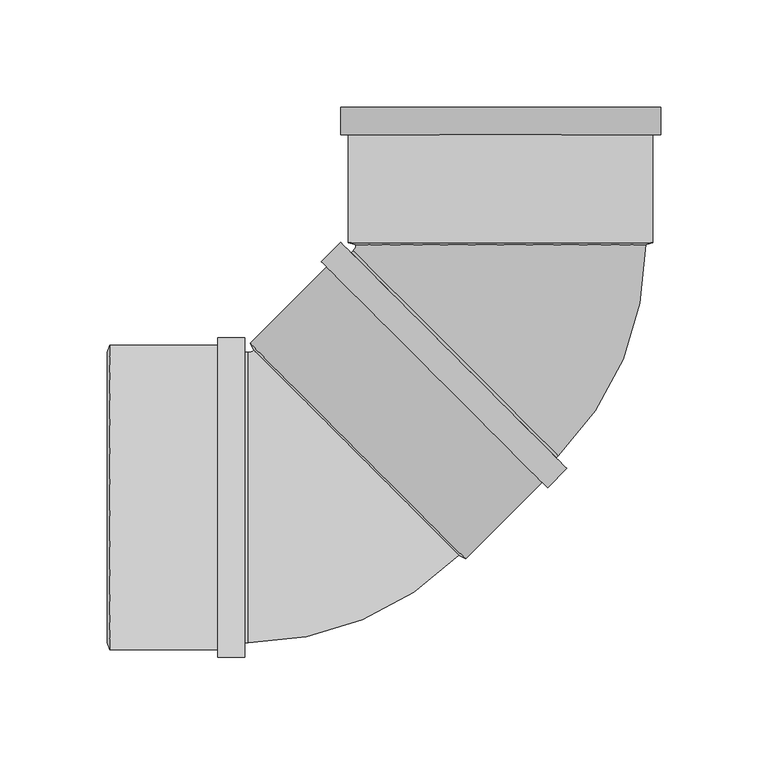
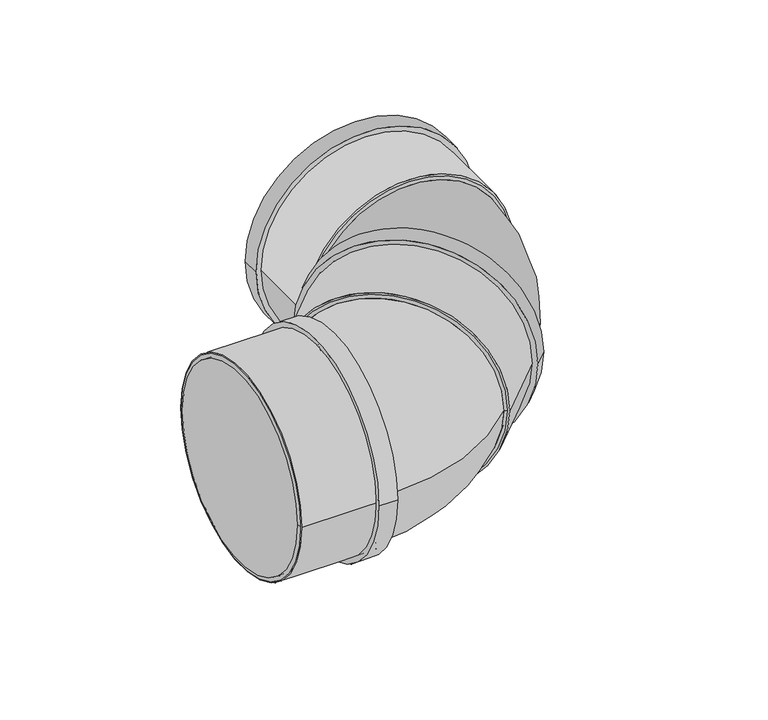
"""IFC4 building model written with IfcOpenShell, lengths in millimetres: pipe fitting geometry, Superdrain SK Bend_Composite 2x45 : Superdrain SK Bend_Composite 2x45."""

from ifc_helpers import new_model, si_unit, point, frame, origin, origin_2d, place, context, project, spatial, polyline, circle_curve, ellipse_curve, trimmed, segment, composite_curve, outline, extrude, source, transform, mapped, element, save
from ifc_brep_helpers import plane_surface, revolved_surface, advanced_brep


def pipe_fitting_3aace630(model_context):
    return source(origin(), model_context, "Body", "SolidModel", [
        advanced_brep(
        [(67.5, 117.5347943, 0.0), (-67.5, 117.5347943, 0.0), (26.8700577, 19.4454365, 0.0), (-68.5893578, 114.9048519, 0.0)],
        [
            (0, 1, circle_curve(frame((0.0, 117.5347943, 0.0), z_axis=(0.0, 1.0, 0.0), x_axis=(-1.0, 0.0, 0.0)), 67.5)),
            (1, 0, circle_curve(frame((0.0, 117.5347943, 0.0), z_axis=(0.0, 1.0, 0.0), x_axis=(-1.0, 0.0, 0.0)), 67.5)),
            (2, 3, circle_curve(frame((-20.85965, 67.1751442, 0.0), z_axis=(-0.7071067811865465, -0.7071067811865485, 0.0), x_axis=(-0.7071067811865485, 0.7071067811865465, 0.0)), 67.5)),
            (3, 2, circle_curve(frame((-20.85965, 67.1751442, 0.0), z_axis=(-0.7071067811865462, -0.7071067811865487, 0.0), x_axis=(-0.7071067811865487, 0.7071067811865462, 0.0)), 67.5)),
            (3, 1, circle_curve(frame((-71.2193001, 117.5347943, 0.0), z_axis=(0.0, 0.0, 1.0), x_axis=(0.7071067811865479, 0.707106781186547, 0.0)), 3.7193001)),
            (0, 2, circle_curve(frame((-71.2193001, 117.5347943, 0.0), z_axis=(0.0, 0.0, -1.0), x_axis=(0.7071067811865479, 0.707106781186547, 0.0)), 138.7193001)),
        ],
        [
            plane_surface(frame((0.0, 117.5347943, 0.0), z_axis=(0.0, 1.0, 0.0), x_axis=(0.0, 0.0, -1.0))),
            plane_surface(frame((-20.85965, 67.1751442, 0.0), z_axis=(-0.7071067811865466, -0.7071067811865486, 0.0), x_axis=(0.0, 0.0, -1.0))),
            revolved_surface(trimmed(ellipse_curve(frame((-20.85965, 167.8944443, 0.0), z_axis=(0.707106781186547, -0.7071067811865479, 0.0), x_axis=(-0.7071067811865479, -0.707106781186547, 0.0)), 67.5, 67.5), [point((-68.5893578, 120.1647366, 0.0))], [point((26.8700577, 215.624152, 0.0))], True, "CARTESIAN"), (-71.2193001, 117.5347943, 0.0), (0.0, 0.0, 1.0)),
            revolved_surface(trimmed(ellipse_curve(frame((-20.85965, 167.8944443, 0.0), z_axis=(0.707106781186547, -0.7071067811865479, 0.0), x_axis=(-0.7071067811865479, -0.707106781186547, 0.0)), 67.5, 67.5), [point((26.8700577, 215.624152, 0.0))], [point((-68.5893578, 120.1647366, 0.0))], True, "CARTESIAN"), (-71.2193001, 117.5347943, 0.0), (0.0, 0.0, 1.0)),
        ],
        [
            (0, [[1, 2]]),
            (1, [[3, 4]]),
            (2, [[-4, 5, -1, 6]]),
            (3, [[-3, -6, -2, -5]]),
        ],
    ),
        extrude(outline(composite_curve([segment(trimmed(circle_curve(origin_2d(), 70.875), [point((0.0, 70.875))], [point((0.0, -70.875))], False, "CARTESIAN"), True, "CONTINUOUS"), segment(trimmed(circle_curve(origin_2d(), 70.875), [point((0.0, -70.875))], [point((0.0, 70.875))], False, "CARTESIAN"), True, "CONTINUOUS")], self_intersect=False), holes=[composite_curve([segment(trimmed(circle_curve(origin_2d(), 67.5), [point((0.0, 67.5))], [point((0.0, -67.5))], True, "CARTESIAN"), True, "CONTINUOUS"), segment(trimmed(circle_curve(origin_2d(), 67.5), [point((0.0, -67.5))], [point((0.0, 67.5))], True, "CARTESIAN"), True, "CONTINUOUS")], self_intersect=False)]), frame((0.0, 118.5347943, 0.0), z_axis=(0.0, 1.0, 0.0), x_axis=(0.0, 0.0, 1.0)), (0.0, 0.0, 1.0), 63.0),
        extrude(outline(composite_curve([segment(trimmed(circle_curve(origin_2d(), 74.41875), [point((0.0, -74.41875))], [point((0.0, 74.41875))], False, "CARTESIAN"), True, "CONTINUOUS"), segment(trimmed(circle_curve(origin_2d(), 74.41875), [point((0.0, 74.41875))], [point((0.0, -74.41875))], False, "CARTESIAN"), True, "CONTINUOUS")], self_intersect=False), holes=[composite_curve([segment(trimmed(circle_curve(origin_2d(), 67.5), [point((0.0, -67.5))], [point((0.0, 67.5))], True, "CARTESIAN"), True, "CONTINUOUS"), segment(trimmed(circle_curve(origin_2d(), 67.5), [point((0.0, 67.5))], [point((0.0, -67.5))], True, "CARTESIAN"), True, "CONTINUOUS")], self_intersect=False)]), frame((0.0, 168.9347943, 0.0), z_axis=(0.0, 1.0, 0.0), x_axis=(0.0, 0.0, 1.0)), (0.0, 0.0, 1.0), 12.6),
        advanced_brep(
        [(70.875, 118.5347943, 0.0), (-70.875, 118.5347943, 0.0), (67.5, 117.5347943, 0.0), (-67.5, 117.5347943, 0.0)],
        [
            (0, 1, circle_curve(frame((0.0, 118.5347943, 0.0), z_axis=(0.0, 1.0, 0.0), x_axis=(1.0, 0.0, 0.0)), 70.875)),
            (1, 0, circle_curve(frame((0.0, 118.5347943, 0.0), z_axis=(0.0, 1.0, 0.0), x_axis=(-1.0, 0.0, 0.0)), 70.875)),
            (2, 3, circle_curve(frame((0.0, 117.5347943, 0.0), z_axis=(0.0, -1.0, 0.0), x_axis=(-1.0, 0.0, 0.0)), 67.5)),
            (3, 2, circle_curve(frame((0.0, 117.5347943, 0.0), z_axis=(0.0, -1.0, 0.0), x_axis=(1.0, 0.0, 0.0)), 67.5)),
            (3, 1),
            (0, 2),
        ],
        [
            plane_surface(frame((0.0, 118.5347943, 0.0), z_axis=(0.0, 1.0, 0.0), x_axis=(0.0, 0.0, -1.0))),
            plane_surface(frame((0.0, 117.5347943, 0.0), z_axis=(0.0, -1.0, 0.0), x_axis=(0.0, 0.0, -1.0))),
            revolved_surface(polyline([(-67.5, 117.5347943, 0.0), (-70.875, 118.5347943, 0.0)]), (0.0, 97.5347943, 0.0), (0.0, 0.9999999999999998, 0.0)),
            revolved_surface(polyline([(67.5, 117.5347943, 0.0), (70.875, 118.5347943, 0.0)]), (0.0, 97.5347943, 0.0), (0.0, 0.9999999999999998, 0.0)),
        ],
        [
            (0, [[1, 2]]),
            (1, [[3, 4]]),
            (2, [[-4, 5, -1, 6]]),
            (3, [[-3, -6, -2, -5]]),
        ],
    ),
        extrude(outline(composite_curve([segment(trimmed(circle_curve(origin_2d(), 67.5), [point((0.0, -67.5))], [point((0.0, 67.5000001))], False, "CARTESIAN"), True, "CONTINUOUS"), segment(trimmed(circle_curve(origin_2d(), 67.5), [point((0.0, 67.5000001))], [point((0.0, -67.5))], False, "CARTESIAN"), True, "CONTINUOUS")], self_intersect=False)), frame((-66.4680374, 21.5667568, 0.0), z_axis=(0.707106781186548, 0.7071067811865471, 0.0), x_axis=(0.0, 0.0, -1.0)), (0.0, 0.0, 1.0), 64.5),
        extrude(outline(composite_curve([segment(trimmed(circle_curve(origin_2d(), 70.875), [point((70.875, 0.0))], [point((-70.875, 0.0))], False, "CARTESIAN"), True, "CONTINUOUS"), segment(trimmed(circle_curve(origin_2d(), 70.875), [point((-70.875, 0.0))], [point((70.875, 0.0))], False, "CARTESIAN"), True, "CONTINUOUS")], self_intersect=False), holes=[composite_curve([segment(trimmed(circle_curve(origin_2d(), 67.5), [point((67.5, 0.0))], [point((-67.5, 0.0))], True, "CARTESIAN"), True, "CONTINUOUS"), segment(trimmed(circle_curve(origin_2d(), 67.5), [point((-67.5, 0.0))], [point((67.5, 0.0))], True, "CARTESIAN"), True, "CONTINUOUS")], self_intersect=False)]), frame((-182.0347943, 0.0, 0.0), z_axis=(1.0, 0.0, 0.0), x_axis=(0.0, 1.0, 0.0)), (0.0, 0.0, 1.0), 63.0),
        extrude(outline(composite_curve([segment(trimmed(circle_curve(origin_2d(), 74.41875), [point((74.41875, 0.0))], [point((-74.41875, 0.0))], False, "CARTESIAN"), True, "CONTINUOUS"), segment(trimmed(circle_curve(origin_2d(), 74.41875), [point((-74.41875, 0.0))], [point((74.41875, 0.0))], False, "CARTESIAN"), True, "CONTINUOUS")], self_intersect=False), holes=[composite_curve([segment(trimmed(circle_curve(origin_2d(), 67.5), [point((67.5, 0.0))], [point((-67.5, 0.0))], True, "CARTESIAN"), True, "CONTINUOUS"), segment(trimmed(circle_curve(origin_2d(), 67.5), [point((-67.5, 0.0))], [point((67.5, 0.0))], True, "CARTESIAN"), True, "CONTINUOUS")], self_intersect=False)]), frame((-131.6347943, 0.0, 0.0), z_axis=(1.0, 0.0, 0.0), x_axis=(0.0, 1.0, 0.0)), (0.0, 0.0, 1.0), 12.6),
        advanced_brep(
        [(-183.0347943, 67.5, 0.0), (-183.0347943, -67.5, 0.0), (-182.0347943, 70.875, 0.0), (-182.0347943, -70.875, 0.0)],
        [
            (0, 1, circle_curve(frame((-183.0347943, 0.0, 0.0), z_axis=(-1.0, 0.0, 0.0), x_axis=(0.0, 1.0000000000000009, 0.0)), 67.5)),
            (1, 0, circle_curve(frame((-183.0347943, 0.0, 0.0), z_axis=(-1.0, 0.0, 0.0), x_axis=(0.0, -1.0000000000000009, 0.0)), 67.5)),
            (2, 3, circle_curve(frame((-182.0347943, 0.0, 0.0), z_axis=(1.0, 0.0, 0.0), x_axis=(0.0, -1.0000000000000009, 0.0)), 70.875)),
            (3, 2, circle_curve(frame((-182.0347943, 0.0, 0.0), z_axis=(1.0, 0.0, 0.0), x_axis=(0.0, 1.0000000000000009, 0.0)), 70.875)),
            (3, 1),
            (0, 2),
        ],
        [
            plane_surface(frame((-183.0347943, 0.0, 0.0), z_axis=(-1.0, 0.0, 0.0), x_axis=(0.0, 0.0, -1.0))),
            plane_surface(frame((-182.0347943, 0.0, 0.0), z_axis=(1.0, 0.0, 0.0), x_axis=(0.0, 0.0, -1.0))),
            revolved_surface(polyline([(-183.0347943, 67.49999999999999, 0.0), (-182.0347943, 70.875, 0.0)]), (-203.0347943, 0.0, 0.0), (1.0000000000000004, 0.0, 0.0)),
            revolved_surface(polyline([(-183.0347943, -67.49999999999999, 0.0), (-182.0347943, -70.875, 0.0)]), (-203.0347943, 0.0, 0.0), (1.0000000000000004, 0.0, 0.0)),
        ],
        [
            (0, [[1, 2]]),
            (1, [[3, 4]]),
            (2, [[-4, 5, -1, 6]]),
            (3, [[-3, -6, -2, -5]]),
        ],
    ),
        advanced_brep(
        [(-19.4454365, -26.8700577, 0.0), (-114.9048519, 68.5893578, 0.0), (-117.5347943, -67.5, 0.0), (-117.5347943, 67.5, 0.0)],
        [
            (0, 1, circle_curve(frame((-67.1751442, 20.85965, 0.0), z_axis=(0.7071067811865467, 0.7071067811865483, 0.0), x_axis=(-0.7071067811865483, 0.7071067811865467, 0.0)), 67.5)),
            (1, 0, circle_curve(frame((-67.1751442, 20.85965, 0.0), z_axis=(0.7071067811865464, 0.7071067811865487, 0.0), x_axis=(-0.7071067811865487, 0.7071067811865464, 0.0)), 67.5)),
            (2, 3, circle_curve(frame((-117.5347943, 0.0, 0.0), z_axis=(-1.0, 0.0, 0.0), x_axis=(0.0, 1.0, 0.0)), 67.5)),
            (3, 2, circle_curve(frame((-117.5347943, 0.0, 0.0), z_axis=(-1.0, 0.0, 0.0), x_axis=(0.0, 1.0, 0.0)), 67.5)),
            (3, 1, circle_curve(frame((-117.5347943, 71.2193001, 0.0), z_axis=(0.0, 0.0, 1.0), x_axis=(1.0, 0.0, 0.0)), 3.7193001)),
            (0, 2, circle_curve(frame((-117.5347943, 71.2193001, 0.0), z_axis=(0.0, 0.0, -1.0), x_axis=(1.0, 0.0, 0.0)), 138.7193001)),
        ],
        [
            plane_surface(frame((-67.1751442, 20.85965, 0.0), z_axis=(0.7071067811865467, 0.7071067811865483, 0.0), x_axis=(0.0, 0.0, -1.0))),
            plane_surface(frame((-117.5347943, 0.0, 0.0), z_axis=(-1.0, 0.0, 0.0), x_axis=(0.0, 0.0, -1.0))),
            revolved_surface(trimmed(ellipse_curve(frame((-46.3154942, 71.2193001, 0.0), z_axis=(0.0, -1.0, 0.0), x_axis=(-1.0, 0.0, 0.0)), 67.5, 67.5), [point((-113.8154942, 71.2193001, 0.0))], [point((21.1845058, 71.2193001, 0.0))], True, "CARTESIAN"), (-117.5347943, 71.2193001, 0.0), (0.0, 0.0, 1.0)),
            revolved_surface(trimmed(ellipse_curve(frame((-46.3154942, 71.2193001, 0.0), z_axis=(0.0, -1.0, 0.0), x_axis=(-1.0, 0.0, 0.0)), 67.5, 67.5), [point((21.1845058, 71.2193001, 0.0))], [point((-113.8154942, 71.2193001, 0.0))], True, "CARTESIAN"), (-117.5347943, 71.2193001, 0.0), (0.0, 0.0, 1.0)),
        ],
        [
            (0, [[1, 2]]),
            (1, [[3, 4]]),
            (2, [[-4, 5, -1, 6]]),
            (3, [[-3, -6, -2, -5]]),
        ],
    ),
        extrude(outline(composite_curve([segment(trimmed(circle_curve(origin_2d(), 70.875), [point((0.0, 70.875))], [point((0.0, -70.875))], False, "CARTESIAN"), True, "CONTINUOUS"), segment(trimmed(circle_curve(origin_2d(), 70.875), [point((0.0, -70.875))], [point((0.0, 70.875))], False, "CARTESIAN"), True, "CONTINUOUS")], self_intersect=False), holes=[composite_curve([segment(trimmed(circle_curve(origin_2d(), 67.5), [point((0.0, 67.5))], [point((0.0, -67.5000001))], True, "CARTESIAN"), True, "CONTINUOUS"), segment(trimmed(circle_curve(origin_2d(), 67.5), [point((0.0, -67.5000001))], [point((0.0, 67.5))], True, "CARTESIAN"), True, "CONTINUOUS")], self_intersect=False)]), frame((-66.4680374, 21.5667568, 0.0), z_axis=(0.7071067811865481, 0.707106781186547, 0.0), x_axis=(0.0, 0.0, 1.0)), (0.0, 0.0, 1.0), 63.0),
        extrude(outline(composite_curve([segment(trimmed(circle_curve(origin_2d(), 74.41875), [point((0.0, -74.41875))], [point((0.0, 74.41875))], False, "CARTESIAN"), True, "CONTINUOUS"), segment(trimmed(circle_curve(origin_2d(), 74.41875), [point((0.0, 74.41875))], [point((0.0, -74.41875))], False, "CARTESIAN"), True, "CONTINUOUS")], self_intersect=False), holes=[composite_curve([segment(trimmed(circle_curve(origin_2d(), 67.5), [point((0.0, -67.5))], [point((0.0, 67.5))], True, "CARTESIAN"), True, "CONTINUOUS"), segment(trimmed(circle_curve(origin_2d(), 67.5), [point((0.0, 67.5))], [point((0.0, -67.5))], True, "CARTESIAN"), True, "CONTINUOUS")], self_intersect=False)]), frame((-30.8298557, 57.2049386, 0.0), z_axis=(0.7071067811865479, 0.7071067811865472, 0.0), x_axis=(0.0, 0.0, 1.0)), (0.0, 0.0, 1.0), 12.6),
        advanced_brep(
        [(-16.3518443, -28.5494363, 0.0), (-116.5842305, 71.6829499, 0.0), (-19.4454365, -26.8700577, 0.0), (-114.9048519, 68.5893578, 0.0)],
        [
            (0, 1, circle_curve(frame((-66.4680374, 21.5667568, 0.0), z_axis=(0.7071067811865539, 0.7071067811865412, 0.0), x_axis=(0.7071067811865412, -0.7071067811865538, 0.0)), 70.875)),
            (1, 0, circle_curve(frame((-66.4680374, 21.5667568, 0.0), z_axis=(0.7071067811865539, 0.7071067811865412, 0.0), x_axis=(-0.7071067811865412, 0.7071067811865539, 0.0)), 70.875)),
            (2, 3, circle_curve(frame((-67.1751442, 20.85965, 0.0), z_axis=(-0.7071067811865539, -0.7071067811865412, 0.0), x_axis=(-0.7071067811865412, 0.7071067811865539, 0.0)), 67.5)),
            (3, 2, circle_curve(frame((-67.1751442, 20.85965, 0.0), z_axis=(-0.7071067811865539, -0.7071067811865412, 0.0), x_axis=(0.7071067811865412, -0.7071067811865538, 0.0)), 67.5)),
            (3, 1),
            (0, 2),
        ],
        [
            plane_surface(frame((-66.4680374, 21.5667568, 0.0), z_axis=(0.7071067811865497, 0.7071067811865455, 0.0), x_axis=(0.0, 0.0, -1.0))),
            plane_surface(frame((-67.1751442, 20.85965, 0.0), z_axis=(-0.7071067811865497, -0.7071067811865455, 0.0), x_axis=(0.0, 0.0, -1.0))),
            revolved_surface(polyline([(-114.90485185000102, 68.58935765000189, 0.0), (-116.58423050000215, 71.68294990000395, 0.0)]), (-81.3172798, 6.7175144, 0.0), (0.7071067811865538, 0.7071067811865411, 0.0)),
            revolved_surface(polyline([(-19.445436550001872, -26.870057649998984, 0.0), (-16.351844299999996, -28.549436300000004, 0.0)]), (-81.3172798, 6.7175144, 0.0), (0.7071067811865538, 0.7071067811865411, 0.0)),
        ],
        [
            (0, [[1, 2]]),
            (1, [[3, 4]]),
            (2, [[-4, 5, -1, 6]]),
            (3, [[-3, -6, -2, -5]]),
        ],
    ),
        extrude(outline(composite_curve([segment(trimmed(circle_curve(origin_2d(), 67.5), [point((-67.5, 0.0))], [point((67.5, 0.0))], False, "CARTESIAN"), True, "CONTINUOUS"), segment(trimmed(circle_curve(origin_2d(), 67.5), [point((67.5, 0.0))], [point((-67.5, 0.0))], False, "CARTESIAN"), True, "CONTINUOUS")], self_intersect=False)), frame((-182.0347943, 0.0, 0.0), z_axis=(1.0, 0.0, 0.0), x_axis=(0.0, 1.0, 0.0)), (0.0, 0.0, 1.0), 64.5),
    ])


if __name__ == "__main__":
    model = new_model("IFC4")
    model_context = context("Model", 3, world=origin())
    ifc_project = project(units=[si_unit("LENGTHUNIT", "METRE", prefix="MILLI")], contexts=[model_context])
    site = spatial("IfcSite", under=ifc_project)
    building = spatial("IfcBuilding", under=site)
    placement = place(None, origin())
    pipe_fitting_shape = pipe_fitting_3aace630(model_context)
    element("IfcPipeFitting", 1, ObjectType="Superdrain SK Bend_Composite 2x45 : Superdrain SK Bend_Composite 2x45", at=placement, inside=building, context=model_context, shape_type="MappedRepresentation", body=[
        mapped(pipe_fitting_shape, transform((0.0, 0.0, 0.0), x_axis=(1.0, 0.0, 0.0), y_axis=(0.0, 1.0, 0.0), z_axis=(0.0, 0.0, 1.0))),
    ])
    save(model, "model.ifc")
